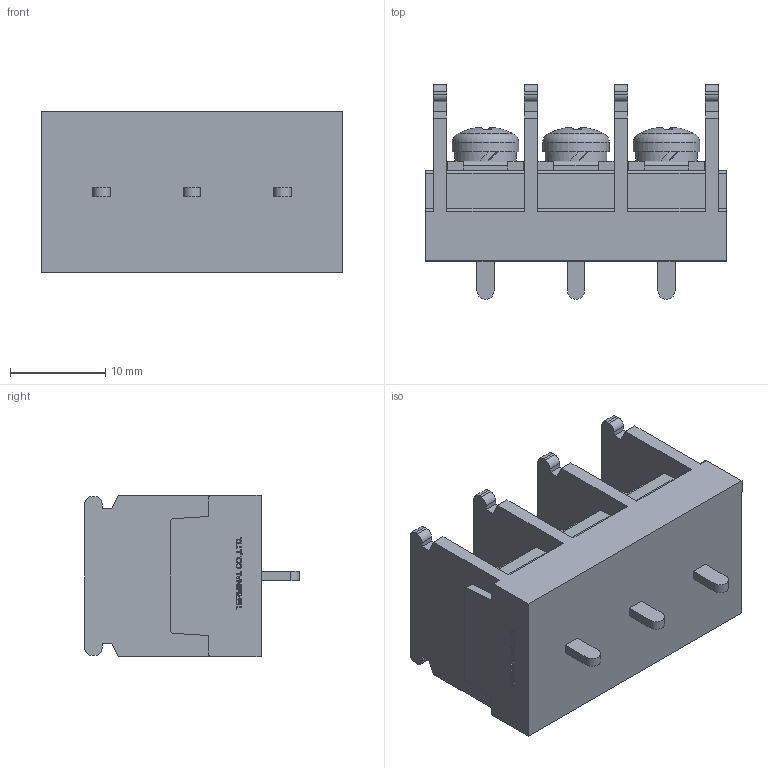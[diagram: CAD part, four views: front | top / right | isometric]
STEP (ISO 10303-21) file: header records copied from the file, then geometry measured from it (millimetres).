
FILE_DESCRIPTION(/* description */ ('Alibre Inc.'),/* implementation_level */ '2;1');
FILE_NAME(/* name */ 'export-80FE50D1-634D-4F77-B95B-985400C4C5A1',/* time_stamp */ '2020-11-04T18:05:31+09:00',/* author */ (''),/* organization */ (''),/* preprocessor_version */ 'ST-DEVELOPER v17',/* originating_system */ 'Alibre',/* authorisation */ '');
FILE_SCHEMA (('CONFIG_CONTROL_DESIGN'));
Length unit declared in the file: millimetre
Bounding box: 31.7 x 22.5 x 17 mm (x, y, z)
Volume: 5902.1 mm3; surface area: 4128.4 mm2
Topology: 1 solids, 20 shells, 659 faces, 1761 edges, 1171 vertices
Faces by surface type: plane 474, bspline 104, cylinder 57, cone 15, torus 6, sphere 3
Full cylindrical faces by diameter (mm): 4 x6, 6.5 x3, 7 x3
Entity records: 19803 total; most frequent: CARTESIAN_POINT 4543, ORIENTED_EDGE 3462, DIRECTION 2310, EDGE_CURVE 1731, VECTOR 1274, LINE 1274, VERTEX_POINT 1159, AXIS2_PLACEMENT_3D 742
